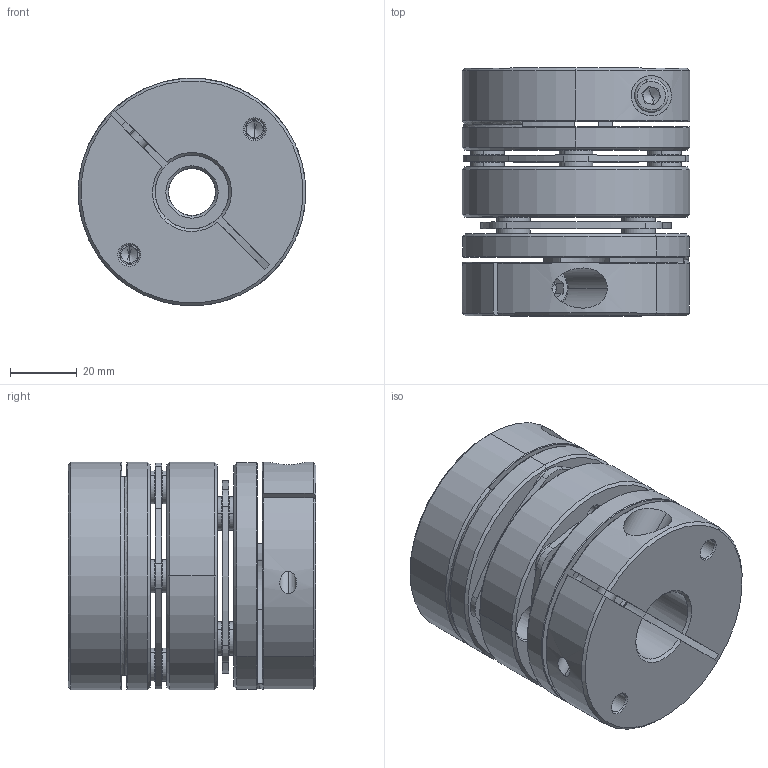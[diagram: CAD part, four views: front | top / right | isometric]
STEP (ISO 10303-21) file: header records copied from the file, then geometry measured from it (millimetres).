
FILE_DESCRIPTION (( 'STEP AP203' ), '1' );
FILE_NAME ('LD2-D68-14-22.STEP', '2021-10-26T08:12:54', ( '' ), ( '' ), 'SwSTEP 2.0', 'SolidWorks 2018', '' );
FILE_SCHEMA (( 'CONFIG_CONTROL_DESIGN' ));
Length unit declared in the file: millimetre
Products named in the file (2): LD2-D68-14-22; 錨璃102^LD2-D68
Assembly tree (1 placements, depth 2):
  LD2-D68-14-22
    錨璃102^LD2-D68
Bounding box: 68 x 74 x 68 mm (x, y, z)
Volume: 191878.7 mm3; surface area: 64853.7 mm2
Topology: 1 solids, 27 shells, 734 faces, 1712 edges, 1042 vertices
Faces by surface type: cylinder 256, cone 226, plane 222, torus 30
Entity records: 21554 total; most frequent: DIRECTION 4004, CARTESIAN_POINT 3937, ORIENTED_EDGE 3376, EDGE_CURVE 1688, AXIS2_PLACEMENT_3D 1625, VERTEX_POINT 1042, CIRCLE 887, EDGE_LOOP 870
